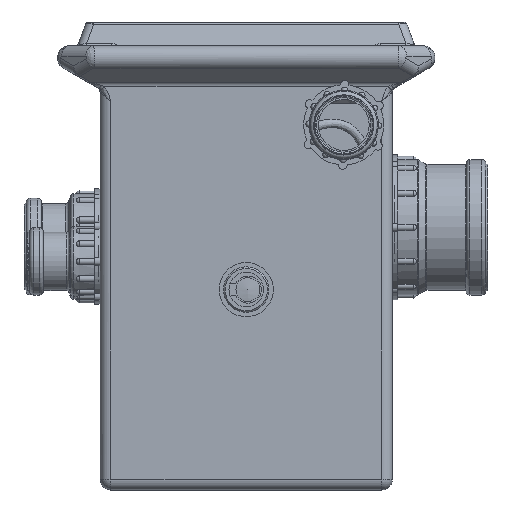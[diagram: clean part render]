
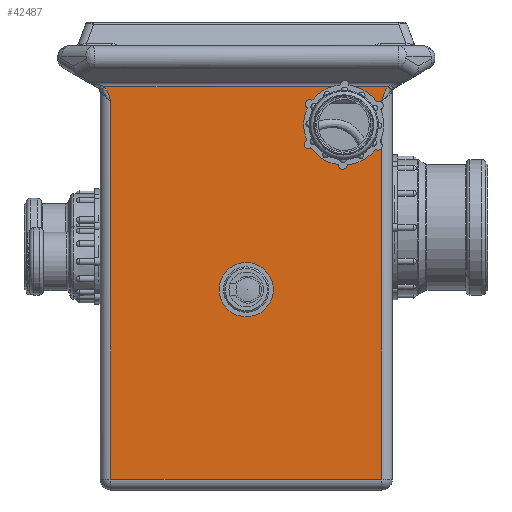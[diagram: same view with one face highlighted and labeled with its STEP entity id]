
A CAD part, left-side view. The second image highlights one B-rep face of the part: STEP entity #42487.
In plain terms, the highlighted planar face has unit normal (-1, 0, 0).
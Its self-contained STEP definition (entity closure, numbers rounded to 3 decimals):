
#946=FACE_BOUND('',#6039,.T.);
#947=FACE_BOUND('',#6040,.T.);
#1236=PLANE('',#45799);
#2540=B_SPLINE_CURVE_WITH_KNOTS('',3,(#68813,#68814,#68815,#68816,#68817,
#68818,#68819,#68820,#68821,#68822,#68823,#68824),.UNSPECIFIED.,.F.,.F.,
(4,1,1,1,1,1,1,2,4),(0.481,0.777,0.925,
1.073,1.221,1.369,1.665,1.961,
1.963),.UNSPECIFIED.);
#2545=B_SPLINE_CURVE_WITH_KNOTS('',3,(#68964,#68965,#68966,#68967,#68968,
#68969,#68970,#68971,#68972,#68973),.UNSPECIFIED.,.F.,.F.,(4,2,1,1,1,1,
4),(-0.002,0.,0.296,0.592,0.888,
1.184,1.48),.UNSPECIFIED.);
#3538=FACE_OUTER_BOUND('',#6038,.T.);
#6038=EDGE_LOOP('',(#29541,#29542,#29543,#29544,#29545,#29546));
#6039=EDGE_LOOP('',(#29547));
#6040=EDGE_LOOP('',(#29548));
#8774=LINE('',#68962,#11698);
#8775=LINE('',#68975,#11699);
#8776=LINE('',#68977,#11700);
#8777=LINE('',#68978,#11701);
#11698=VECTOR('',#52083,10.);
#11699=VECTOR('',#52084,10.);
#11700=VECTOR('',#52085,10.);
#11701=VECTOR('',#52086,10.);
#14305=CIRCLE('',#45190,21.);
#14307=CIRCLE('',#45193,29.);
#17107=VERTEX_POINT('',#64167);
#17109=VERTEX_POINT('',#64173);
#17564=VERTEX_POINT('',#68810);
#17565=VERTEX_POINT('',#68812);
#17573=VERTEX_POINT('',#68961);
#17574=VERTEX_POINT('',#68963);
#17575=VERTEX_POINT('',#68974);
#17576=VERTEX_POINT('',#68976);
#21393=EDGE_CURVE('',#17107,#17107,#14305,.T.);
#21396=EDGE_CURVE('',#17109,#17109,#14307,.T.);
#22150=EDGE_CURVE('',#17564,#17565,#2540,.T.);
#22163=EDGE_CURVE('',#17573,#17564,#8774,.T.);
#22164=EDGE_CURVE('',#17574,#17573,#2545,.T.);
#22165=EDGE_CURVE('',#17575,#17574,#8775,.T.);
#22166=EDGE_CURVE('',#17576,#17575,#8776,.T.);
#22167=EDGE_CURVE('',#17565,#17576,#8777,.T.);
#29541=ORIENTED_EDGE('',*,*,#22150,.F.);
#29542=ORIENTED_EDGE('',*,*,#22163,.F.);
#29543=ORIENTED_EDGE('',*,*,#22164,.F.);
#29544=ORIENTED_EDGE('',*,*,#22165,.F.);
#29545=ORIENTED_EDGE('',*,*,#22166,.F.);
#29546=ORIENTED_EDGE('',*,*,#22167,.F.);
#29547=ORIENTED_EDGE('',*,*,#21393,.T.);
#29548=ORIENTED_EDGE('',*,*,#21396,.T.);
#42487=ADVANCED_FACE('',(#3538,#946,#947),#1236,.T.);
#45190=AXIS2_PLACEMENT_3D('',#64168,#50546,#50547);
#45193=AXIS2_PLACEMENT_3D('',#64174,#50553,#50554);
#45799=AXIS2_PLACEMENT_3D('',#68960,#52081,#52082);
#50546=DIRECTION('center_axis',(1.,0.,0.));
#50547=DIRECTION('ref_axis',(0.,-1.,0.));
#50553=DIRECTION('center_axis',(1.,0.,0.));
#50554=DIRECTION('ref_axis',(0.,-1.,0.));
#52081=DIRECTION('center_axis',(-1.,0.,0.));
#52082=DIRECTION('ref_axis',(0.,-1.,0.));
#52083=DIRECTION('',(0.,-1.,0.));
#52084=DIRECTION('',(0.,0.,1.));
#52085=DIRECTION('',(0.,1.,0.));
#52086=DIRECTION('',(0.,0.,-1.));
#64167=CARTESIAN_POINT('',(-200.,21.,185.));
#64168=CARTESIAN_POINT('Origin',(-200.,0.,185.));
#64173=CARTESIAN_POINT('',(-200.,-61.,337.));
#64174=CARTESIAN_POINT('Origin',(-200.,-90.,337.));
#68810=CARTESIAN_POINT('',(-200.,-130.517,372.113));
#68812=CARTESIAN_POINT('',(-200.,-125.,358.453));
#68813=CARTESIAN_POINT('Ctrl Pts',(-200.,-130.517,372.113));
#68814=CARTESIAN_POINT('Ctrl Pts',(-200.,-129.9,371.343));
#68815=CARTESIAN_POINT('Ctrl Pts',(-200.,-129.089,
370.094));
#68816=CARTESIAN_POINT('Ctrl Pts',(-200.,-128.197,
368.319));
#68817=CARTESIAN_POINT('Ctrl Pts',(-200.,-127.611,
366.958));
#68818=CARTESIAN_POINT('Ctrl Pts',(-200.,-127.091,
365.573));
#68819=CARTESIAN_POINT('Ctrl Pts',(-200.,-126.464,
363.7));
#68820=CARTESIAN_POINT('Ctrl Pts',(-200.,-125.771,361.33));
#68821=CARTESIAN_POINT('Ctrl Pts',(-200.,-125.261,
359.425));
#68822=CARTESIAN_POINT('Ctrl Pts',(-200.,-125.003,358.466));
#68823=CARTESIAN_POINT('Ctrl Pts',(-200.,-125.002,358.459));
#68824=CARTESIAN_POINT('Ctrl Pts',(-200.,-125.,358.453));
#68960=CARTESIAN_POINT('Origin',(-200.,135.,0.));
#68961=CARTESIAN_POINT('',(-200.,130.517,372.113));
#68962=CARTESIAN_POINT('',(-200.,67.5,372.113));
#68963=CARTESIAN_POINT('',(-200.,125.,358.453));
#68964=CARTESIAN_POINT('Ctrl Pts',(-200.,125.,358.453));
#68965=CARTESIAN_POINT('Ctrl Pts',(-200.,125.002,358.459));
#68966=CARTESIAN_POINT('Ctrl Pts',(-200.,125.003,358.466));
#68967=CARTESIAN_POINT('Ctrl Pts',(-200.,125.261,359.425));
#68968=CARTESIAN_POINT('Ctrl Pts',(-200.,125.77,361.328));
#68969=CARTESIAN_POINT('Ctrl Pts',(-200.,126.603,364.175));
#68970=CARTESIAN_POINT('Ctrl Pts',(-200.,127.577,366.966));
#68971=CARTESIAN_POINT('Ctrl Pts',(-200.,128.817,369.674));
#68972=CARTESIAN_POINT('Ctrl Pts',(-200.,129.9,371.343));
#68973=CARTESIAN_POINT('Ctrl Pts',(-200.,130.517,372.113));
#68974=CARTESIAN_POINT('',(-200.,125.,10.));
#68975=CARTESIAN_POINT('',(-200.,125.,0.));
#68976=CARTESIAN_POINT('',(-200.,-125.,10.));
#68977=CARTESIAN_POINT('',(-200.,67.5,10.));
#68978=CARTESIAN_POINT('',(-200.,-125.,0.));
